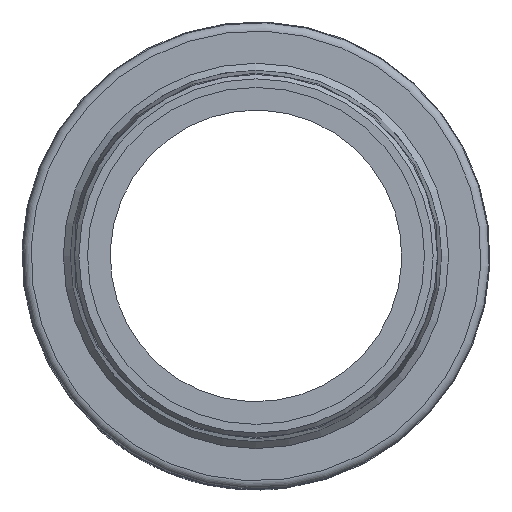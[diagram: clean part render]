
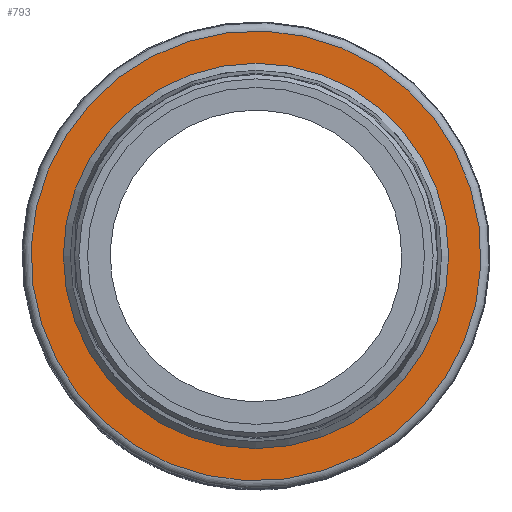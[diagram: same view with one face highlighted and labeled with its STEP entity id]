
A CAD part, left-side view. The second image highlights one B-rep face of the part: STEP entity #793.
In plain terms, the highlighted planar face has unit normal (-1, 0, 0) as drawn and (0, -1, 0) by its records, which use the part's own axes.
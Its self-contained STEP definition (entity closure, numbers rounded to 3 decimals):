
#297=ORIENTED_EDGE('',*,*,#320,.F.);
#298=ORIENTED_EDGE('',*,*,#387,.T.);
#320=EDGE_CURVE('',#403,#403,#470,.T.);
#387=EDGE_CURVE('',#454,#454,#485,.T.);
#403=VERTEX_POINT('',#1086);
#454=VERTEX_POINT('',#2974);
#470=CIRCLE('',#839,46.25);
#485=CIRCLE('',#873,54.);
#568=EDGE_LOOP('',(#297));
#569=EDGE_LOOP('',(#298));
#658=FACE_BOUND('',#568,.T.);
#659=FACE_BOUND('',#569,.T.);
#684=PLANE('',#874);
#793=ADVANCED_FACE('',(#658,#659),#684,.T.);
#839=AXIS2_PLACEMENT_3D('',#1085,#937,#938);
#873=AXIS2_PLACEMENT_3D('',#2973,#1024,#1025);
#874=AXIS2_PLACEMENT_3D('',#2975,#1026,#1027);
#937=DIRECTION('',(0.,-1.,0.));
#938=DIRECTION('',(-0.382,0.,0.924));
#1024=DIRECTION('',(0.,-1.,0.));
#1025=DIRECTION('',(0.,0.,-1.));
#1026=DIRECTION('',(0.,-1.,0.));
#1027=DIRECTION('',(0.,0.,-1.));
#1085=CARTESIAN_POINT('',(0.,0.,0.));
#1086=CARTESIAN_POINT('',(-17.661,0.,42.745));
#2973=CARTESIAN_POINT('',(0.,0.,0.));
#2974=CARTESIAN_POINT('',(0.,0.,-54.));
#2975=CARTESIAN_POINT('',(0.,0.,44.45));
